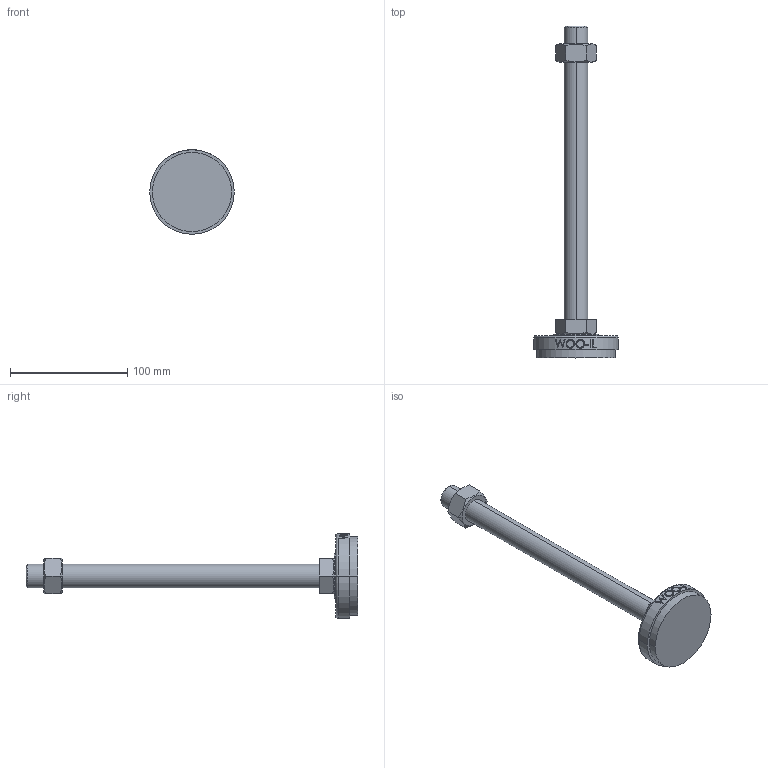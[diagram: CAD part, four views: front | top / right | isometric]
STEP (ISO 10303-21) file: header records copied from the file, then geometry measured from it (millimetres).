
FILE_DESCRIPTION (( 'STEP AP214' ), '1' );
FILE_NAME ('NS72-M20-250.step', '2021-01-11T05:48:45', ( '' ), ( '' ), 'SwSTEP 2.0', 'SolidWorks 2019', '' );
FILE_SCHEMA (( 'AUTOMOTIVE_DESIGN' ));
Length unit declared in the file: millimetre
Products named in the file (2): NS72-M20-250
Bounding box: 72 x 283 x 72 mm (x, y, z)
Volume: 170624 mm3; surface area: 34237.5 mm2
Topology: 3 solids, 3 shells, 96 faces, 223 edges, 144 vertices
Faces by surface type: plane 48, cylinder 18, bspline 16, cone 12, torus 2
Entity records: 4274 total; most frequent: CARTESIAN_POINT 2149, ORIENTED_EDGE 446, DIRECTION 381, EDGE_CURVE 223, VERTEX_POINT 144, AXIS2_PLACEMENT_3D 142, EDGE_LOOP 109, VECTOR 97
